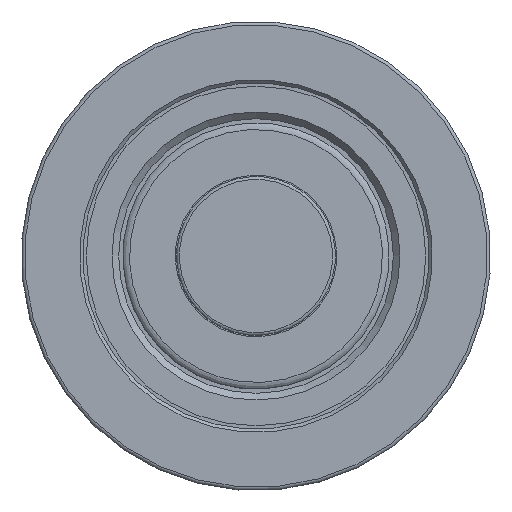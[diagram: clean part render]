
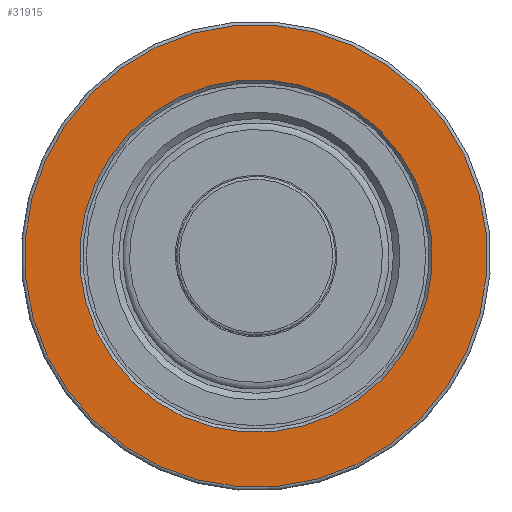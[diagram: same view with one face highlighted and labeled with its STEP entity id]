
A CAD part, front view. The second image highlights one B-rep face of the part: STEP entity #31915.
In plain terms, the highlighted planar face has unit normal (0, -1, 0).
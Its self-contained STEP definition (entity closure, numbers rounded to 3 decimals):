
#9003=FACE_BOUND('',#11899,.T.);
#10170=FACE_OUTER_BOUND('',#11898,.T.);
#11898=EDGE_LOOP('',(#27380));
#11899=EDGE_LOOP('',(#27381));
#12850=CIRCLE('',#33286,13.9);
#12854=CIRCLE('',#33291,10.6);
#15176=VERTEX_POINT('',#61614);
#15179=VERTEX_POINT('',#61622);
#19406=EDGE_CURVE('',#15176,#15176,#12850,.T.);
#19410=EDGE_CURVE('',#15179,#15179,#12854,.T.);
#27380=ORIENTED_EDGE('',*,*,#19406,.F.);
#27381=ORIENTED_EDGE('',*,*,#19410,.F.);
#30638=PLANE('',#33290);
#31915=ADVANCED_FACE('',(#10170,#9003),#30638,.T.);
#33286=AXIS2_PLACEMENT_3D('',#61615,#36543,#36544);
#33290=AXIS2_PLACEMENT_3D('',#61621,#36551,#36552);
#33291=AXIS2_PLACEMENT_3D('',#61623,#36553,#36554);
#36543=DIRECTION('center_axis',(0.,1.,0.));
#36544=DIRECTION('ref_axis',(-0.098,0.,0.995));
#36551=DIRECTION('center_axis',(0.,-1.,0.));
#36552=DIRECTION('ref_axis',(0.995,0.,0.098));
#36553=DIRECTION('center_axis',(0.,-1.,0.));
#36554=DIRECTION('ref_axis',(-0.098,0.,0.995));
#61614=CARTESIAN_POINT('',(-13.833,-20.342,-1.358));
#61615=CARTESIAN_POINT('Origin',(0.,-20.342,
0.));
#61621=CARTESIAN_POINT('Origin',(1.016,-20.342,-10.35));
#61622=CARTESIAN_POINT('',(1.036,-20.342,-10.549));
#61623=CARTESIAN_POINT('Origin',(0.,-20.342,
0.));
